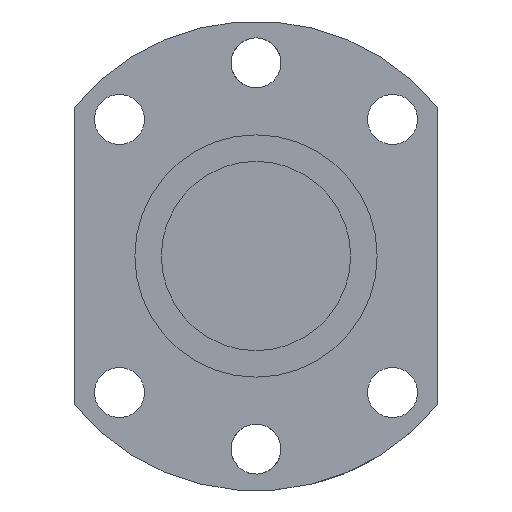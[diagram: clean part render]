
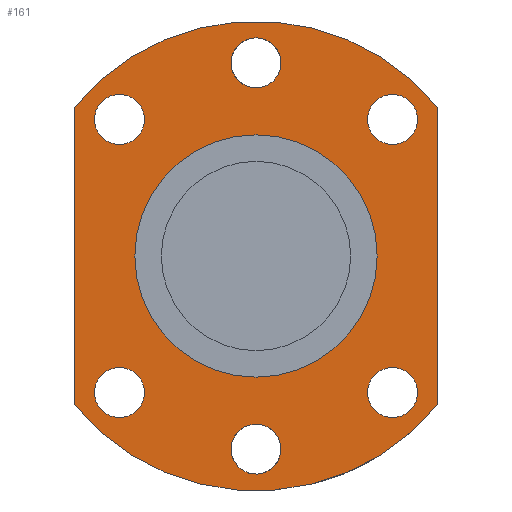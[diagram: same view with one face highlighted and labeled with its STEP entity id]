
A CAD part, front view. The second image highlights one B-rep face of the part: STEP entity #161.
In plain terms, the highlighted planar face has unit normal (0, -1, 0).
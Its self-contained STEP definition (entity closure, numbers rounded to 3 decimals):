
#98=LINE('',#873,#108);
#102=LINE('',#944,#112);
#108=VECTOR('',#693,1.);
#112=VECTOR('',#705,1.);
#135=PLANE('',#616);
#161=ADVANCED_FACE('',(#224,#225,#226,#227,#228,#229,#230,#231),#135,.F.);
#224=FACE_BOUND('',#297,.T.);
#225=FACE_BOUND('',#298,.T.);
#226=FACE_BOUND('',#299,.T.);
#227=FACE_BOUND('',#300,.T.);
#228=FACE_BOUND('',#301,.T.);
#229=FACE_BOUND('',#302,.T.);
#230=FACE_BOUND('',#303,.T.);
#231=FACE_BOUND('',#304,.T.);
#297=EDGE_LOOP('',(#387));
#298=EDGE_LOOP('',(#388));
#299=EDGE_LOOP('',(#389));
#300=EDGE_LOOP('',(#390));
#301=EDGE_LOOP('',(#391));
#302=EDGE_LOOP('',(#392));
#303=EDGE_LOOP('',(#393));
#304=EDGE_LOOP('',(#394,#395,#396,#397));
#387=ORIENTED_EDGE('',*,*,#517,.F.);
#388=ORIENTED_EDGE('',*,*,#518,.F.);
#389=ORIENTED_EDGE('',*,*,#519,.F.);
#390=ORIENTED_EDGE('',*,*,#520,.T.);
#391=ORIENTED_EDGE('',*,*,#521,.T.);
#392=ORIENTED_EDGE('',*,*,#522,.T.);
#393=ORIENTED_EDGE('',*,*,#523,.T.);
#394=ORIENTED_EDGE('',*,*,#497,.F.);
#395=ORIENTED_EDGE('',*,*,#508,.F.);
#396=ORIENTED_EDGE('',*,*,#505,.F.);
#397=ORIENTED_EDGE('',*,*,#501,.F.);
#453=VERTEX_POINT('',#865);
#454=VERTEX_POINT('',#866);
#457=VERTEX_POINT('',#874);
#460=VERTEX_POINT('',#939);
#469=VERTEX_POINT('',#963);
#470=VERTEX_POINT('',#965);
#471=VERTEX_POINT('',#967);
#472=VERTEX_POINT('',#969);
#473=VERTEX_POINT('',#971);
#474=VERTEX_POINT('',#973);
#475=VERTEX_POINT('',#975);
#497=EDGE_CURVE('',#453,#454,#546,.T.);
#501=EDGE_CURVE('',#454,#457,#98,.T.);
#505=EDGE_CURVE('',#457,#460,#548,.T.);
#508=EDGE_CURVE('',#460,#453,#102,.T.);
#517=EDGE_CURVE('',#469,#469,#557,.T.);
#518=EDGE_CURVE('',#470,#470,#558,.T.);
#519=EDGE_CURVE('',#471,#471,#559,.T.);
#520=EDGE_CURVE('',#472,#472,#560,.T.);
#521=EDGE_CURVE('',#473,#473,#561,.T.);
#522=EDGE_CURVE('',#474,#474,#562,.T.);
#523=EDGE_CURVE('',#475,#475,#563,.T.);
#546=CIRCLE('',#593,31.);
#548=CIRCLE('',#597,31.);
#557=CIRCLE('',#609,3.3);
#558=CIRCLE('',#610,3.3);
#559=CIRCLE('',#611,3.3);
#560=CIRCLE('',#612,3.3);
#561=CIRCLE('',#613,3.3);
#562=CIRCLE('',#614,3.3);
#563=CIRCLE('',#615,16.);
#593=AXIS2_PLACEMENT_3D('',#864,#685,#686);
#597=AXIS2_PLACEMENT_3D('',#938,#698,#699);
#609=AXIS2_PLACEMENT_3D('',#962,#725,#726);
#610=AXIS2_PLACEMENT_3D('',#964,#727,#728);
#611=AXIS2_PLACEMENT_3D('',#966,#729,#730);
#612=AXIS2_PLACEMENT_3D('',#968,#731,#732);
#613=AXIS2_PLACEMENT_3D('',#970,#733,#734);
#614=AXIS2_PLACEMENT_3D('',#972,#735,#736);
#615=AXIS2_PLACEMENT_3D('',#974,#737,#738);
#616=AXIS2_PLACEMENT_3D('',#976,#739,#740);
#685=DIRECTION('',(0.,1.,0.));
#686=DIRECTION('',(1.,0.,0.));
#693=DIRECTION('',(0.,0.,-1.));
#698=DIRECTION('',(0.,1.,0.));
#699=DIRECTION('',(1.,0.,0.));
#705=DIRECTION('',(0.,0.,1.));
#725=DIRECTION('',(0.,-1.,0.));
#726=DIRECTION('',(-1.,0.,0.));
#727=DIRECTION('',(0.,-1.,0.));
#728=DIRECTION('',(-0.707,0.,-0.707));
#729=DIRECTION('',(0.,-1.,0.));
#730=DIRECTION('',(0.,0.,-1.));
#731=DIRECTION('',(0.,1.,0.));
#732=DIRECTION('',(-1.,0.,0.));
#733=DIRECTION('',(0.,1.,0.));
#734=DIRECTION('',(-0.707,0.,0.707));
#735=DIRECTION('',(0.,1.,0.));
#736=DIRECTION('',(0.,0.,1.));
#737=DIRECTION('',(0.,1.,0.));
#738=DIRECTION('',(0.,0.,1.));
#739=DIRECTION('',(0.,1.,0.));
#740=DIRECTION('',(0.,0.,-1.));
#864=CARTESIAN_POINT('',(0.,-25.5,0.));
#865=CARTESIAN_POINT('',(-24.,-25.5,19.621));
#866=CARTESIAN_POINT('',(24.,-25.5,19.621));
#873=CARTESIAN_POINT('',(24.,-25.5,19.621));
#874=CARTESIAN_POINT('',(24.,-25.5,-19.621));
#938=CARTESIAN_POINT('',(0.,-25.5,0.));
#939=CARTESIAN_POINT('',(-24.,-25.5,-19.621));
#944=CARTESIAN_POINT('',(-24.,-25.5,-19.621));
#962=CARTESIAN_POINT('',(18.031,-25.5,18.031));
#963=CARTESIAN_POINT('',(14.731,-25.5,18.031));
#964=CARTESIAN_POINT('',(0.,-25.5,25.5));
#965=CARTESIAN_POINT('',(-2.333,-25.5,23.167));
#966=CARTESIAN_POINT('',(-18.031,-25.5,18.031));
#967=CARTESIAN_POINT('',(-18.031,-25.5,14.731));
#968=CARTESIAN_POINT('',(18.031,-25.5,-18.031));
#969=CARTESIAN_POINT('',(14.731,-25.5,-18.031));
#970=CARTESIAN_POINT('',(0.,-25.5,-25.5));
#971=CARTESIAN_POINT('',(-2.333,-25.5,-23.167));
#972=CARTESIAN_POINT('',(-18.031,-25.5,-18.031));
#973=CARTESIAN_POINT('',(-18.031,-25.5,-14.731));
#974=CARTESIAN_POINT('',(0.,-25.5,0.));
#975=CARTESIAN_POINT('',(0.,-25.5,16.));
#976=CARTESIAN_POINT('',(0.,-25.5,0.));
